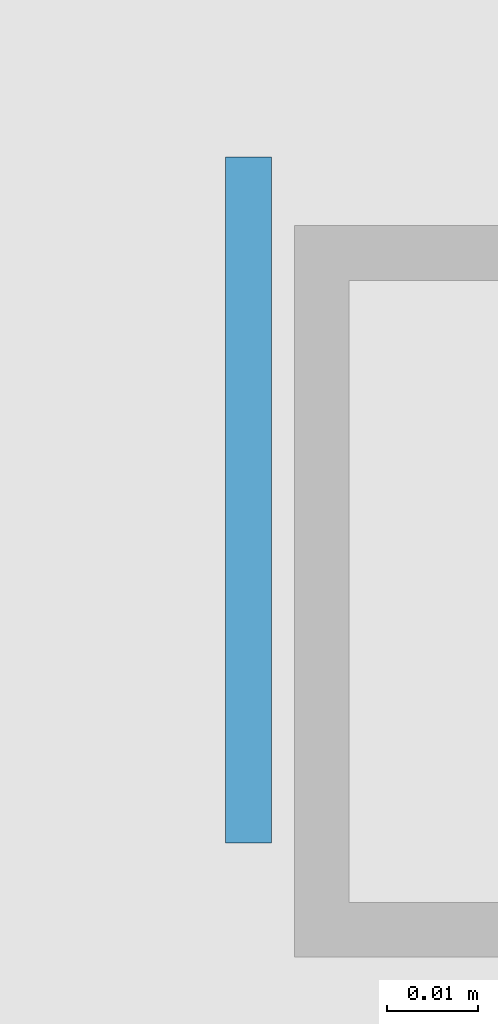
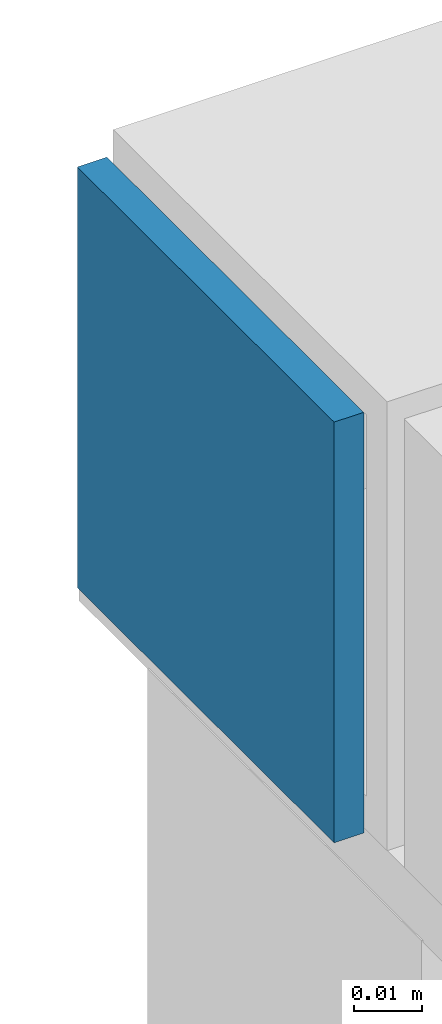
# One storey, part 33 of 98: 1 beam.
"""IFC2X3 building model written with IfcOpenShell, lengths in millimetres."""

from ifc_helpers import new_model, entity, si_unit, converted_unit, derived_unit, direction, frame, origin_with_axes, place, context, subcontext, project, spatial, faceted_brep, material, type_object, element, save


model = new_model("IFC2X3")

# Units and contexts
model_context = context("Model", 3, precision=0.01, world=frame((0.0, 4.29681676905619e-09, 0.0)), true_north=direction((4.01073788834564e-13, 1.0)))
plan_context = context("Plan", 3, precision=0.01, world=frame((0.0, 4.29681676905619e-09, 0.0)), true_north=direction((4.01073788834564e-13, 1.0)))
body_context = subcontext(model_context, "Body", "Model", "MODEL_VIEW")
ifc_project = project(units=[converted_unit("PLANEANGLEUNIT", "DEGREE", entity("IfcPositiveLengthMeasure", 0.0174532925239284), si_unit("PLANEANGLEUNIT", "RADIAN"), dimensions=[0, 0, 0, 0, 0, 0, 0]), si_unit("AREAUNIT", "SQUARE_METRE"), si_unit("LENGTHUNIT", "METRE", prefix="MILLI"), si_unit("MASSUNIT", "GRAM", prefix="KILO"), si_unit("POWERUNIT", "WATT"), si_unit("PRESSUREUNIT", "PASCAL"), si_unit("FORCEUNIT", "NEWTON", prefix="KILO"), si_unit("ELECTRICCURRENTUNIT", "AMPERE"), si_unit("THERMODYNAMICTEMPERATUREUNIT", "DEGREE_CELSIUS"), si_unit("TIMEUNIT", "SECOND"), si_unit("VOLUMEUNIT", "CUBIC_METRE"), derived_unit("LINEARVELOCITYUNIT", [(si_unit("LENGTHUNIT", "METRE"), 1), (si_unit("TIMEUNIT", "SECOND"), -1)]), derived_unit("VOLUMETRICFLOWRATEUNIT", [(si_unit("VOLUMEUNIT", "CUBIC_METRE"), 1), (si_unit("TIMEUNIT", "SECOND"), -1)]), derived_unit("THERMALTRANSMITTANCEUNIT", [(si_unit("POWERUNIT", "WATT"), 1), (si_unit("THERMODYNAMICTEMPERATUREUNIT", "KELVIN"), -1), (si_unit("AREAUNIT", "SQUARE_METRE"), -1)])], contexts=[model_context, plan_context])

# Site, building, storey
site_placement = place(None, frame((0.0, -4.29681676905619e-09, 0.0), z_axis=(0.0, 0.0, 1.0), x_axis=(1.0, 0.0, 0.0)))
site = spatial("IfcSite", under=ifc_project, at=site_placement, Name="Gardermoen", CompositionType="ELEMENT")
building_placement = place(site_placement, frame((0.0, 4.29681676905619e-09, 0.0), z_axis=(0.0, 0.0, 1.0), x_axis=(1.0, 0.0, 0.0)))
building = spatial("IfcBuilding", under=site, at=building_placement, Name="TS", CompositionType="ELEMENT")
storey_placement = place(building_placement, origin_with_axes())
storey = spatial("IfcBuildingStorey", under=building, at=storey_placement, Name="D", CompositionType="ELEMENT", Elevation=0.0)

# Beam
ifc_material = material(Name="STEEL/S355")
beam_type = type_object("IfcBeamType", Name="PL5*75", PredefinedType="NOTDEFINED")
beam_placement = place(storey_placement, frame((513955.0, 420827.50496895, 206839.999718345), z_axis=(0.0, 0.0, 1.0), x_axis=(0.0, -1.0, 0.0)))
element("IfcBeam", 1, at=beam_placement, inside=storey, type_object=beam_type, material=ifc_material, Name="STÅLBJELKE", ObjectType="PL5*75", context=body_context, shape_type="Brep", body=[
    faceted_brep([(0.0, 2.5, -37.5), (0.0, 2.5, 37.5), (74.9999999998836, 2.5, 37.5), (74.9999999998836, 2.5, -37.5), (0.0, -2.5, 37.5), (74.9999999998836, -2.5, 37.5), (0.0, -2.5, -37.5), (74.9999999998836, -2.5, -37.5)], [[[0, 1, 2, 3]], [[1, 4, 5, 2]], [[4, 6, 7, 5]], [[6, 0, 3, 7]], [[5, 7, 3, 2]], [[6, 4, 1, 0]]]),
])

save(model, "model.ifc")
